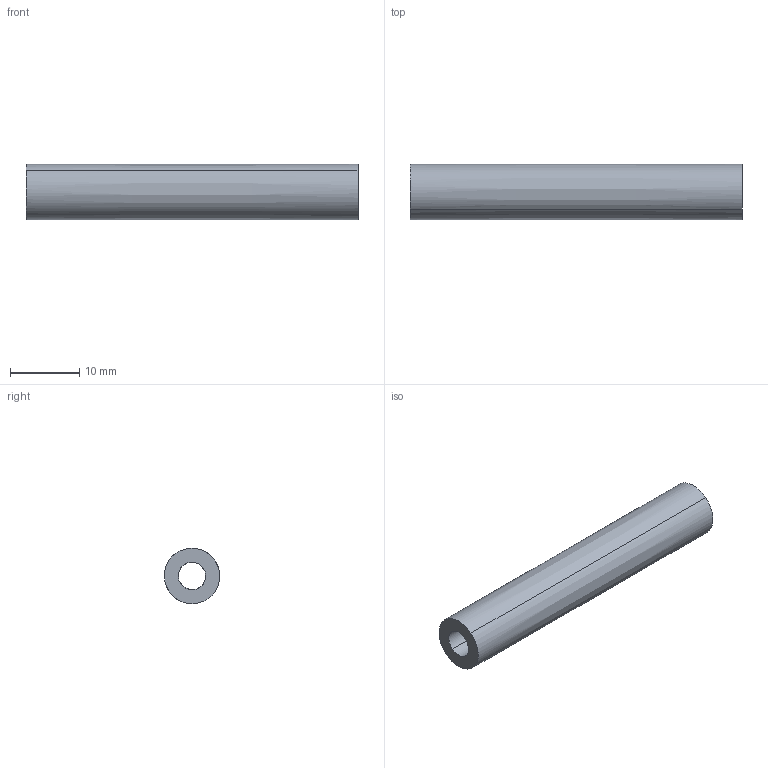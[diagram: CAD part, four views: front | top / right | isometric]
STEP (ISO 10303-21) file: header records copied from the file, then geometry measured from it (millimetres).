
FILE_DESCRIPTION(/* description */ (''),/* implementation_level */ '2;1');
FILE_NAME(/* name */ 'ESPACI~2',/* time_stamp */ '2019-04-01T21:32:38-03:00',/* author */ (''),/* organization */ (''),/* preprocessor_version */ 'ST-DEVELOPER v16.5',/* originating_system */ '',/* authorisation */ '');
FILE_SCHEMA (('AUTOMOTIVE_DESIGN'));
Length unit declared in the file: millimetre
Products named in the file (1): Document
Bounding box: 47.9 x 8 x 7.99 mm (x, y, z)
Volume: 1805.6 mm3; surface area: 1881 mm2
Topology: 1 solids, 1 shells, 6 faces, 12 edges, 8 vertices
Faces by surface type: bspline 5, plane 1
Entity records: 748 total; most frequent: CARTESIAN_POINT 637, ORIENTED_EDGE 24, EDGE_CURVE 12, B_SPLINE_CURVE_WITH_KNOTS 12, EDGE_LOOP 8, VERTEX_POINT 8, ADVANCED_FACE 6, FACE_OUTER_BOUND 6
